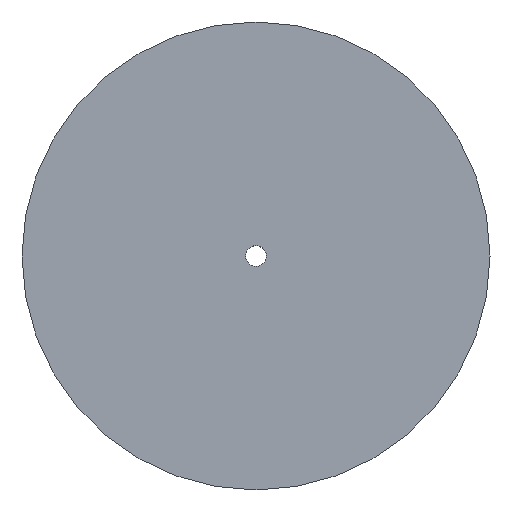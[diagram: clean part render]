
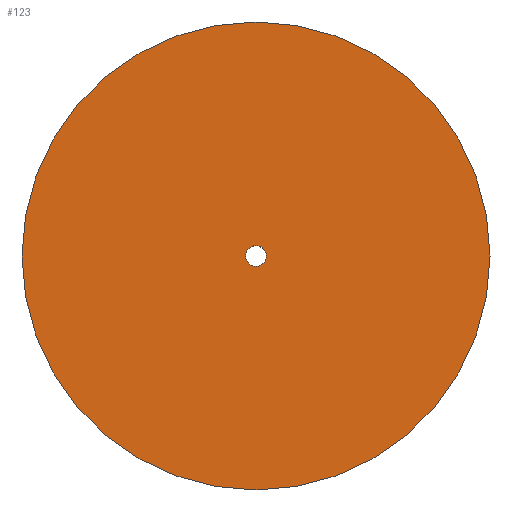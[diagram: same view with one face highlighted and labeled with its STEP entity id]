
A CAD part, top view. The second image highlights one B-rep face of the part: STEP entity #123.
In plain terms, the highlighted planar face has unit normal (0, 0, 1).
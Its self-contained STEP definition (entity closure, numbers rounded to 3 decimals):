
#62=CARTESIAN_POINT('Vertex',(-2.852,1.558,0.)) ;
#76=CARTESIAN_POINT('Vertex',(2.852,-1.558,0.)) ;
#79=CARTESIAN_POINT('Axis2P3D Location',(0.,0.,0.)) ;
#91=CARTESIAN_POINT('Axis2P3D Location',(0.,0.,0.)) ;
#96=CARTESIAN_POINT('Axis2P3D Location',(0.,0.,0.)) ;
#100=CARTESIAN_POINT('Vertex',(74.,0.,0.)) ;
#102=CARTESIAN_POINT('Vertex',(-74.,0.,0.)) ;
#105=CARTESIAN_POINT('Axis2P3D Location',(0.,0.,0.)) ;
#114=CARTESIAN_POINT('Axis2P3D Location',(0.,0.,0.)) ;
#80=DIRECTION('Axis2P3D Direction',(0.,-0.,-1.)) ;
#92=DIRECTION('Axis2P3D Direction',(0.,0.,1.)) ;
#93=DIRECTION('Axis2P3D XDirection',(1.,0.,0.)) ;
#97=DIRECTION('Axis2P3D Direction',(0.,0.,1.)) ;
#106=DIRECTION('Axis2P3D Direction',(0.,0.,1.)) ;
#115=DIRECTION('Axis2P3D Direction',(0.,0.,1.)) ;
#81=AXIS2_PLACEMENT_3D('Circle Axis2P3D',#79,#80,$) ;
#94=AXIS2_PLACEMENT_3D('Plane Axis2P3D',#91,#92,#93) ;
#98=AXIS2_PLACEMENT_3D('Circle Axis2P3D',#96,#97,$) ;
#107=AXIS2_PLACEMENT_3D('Circle Axis2P3D',#105,#106,$) ;
#116=AXIS2_PLACEMENT_3D('Circle Axis2P3D',#114,#115,$) ;
#111=ORIENTED_EDGE('',*,*,#104,.F.) ;
#112=ORIENTED_EDGE('',*,*,#109,.F.) ;
#120=ORIENTED_EDGE('',*,*,#118,.F.) ;
#121=ORIENTED_EDGE('',*,*,#83,.F.) ;
#122=FACE_BOUND('',#119,.T.) ;
#123=ADVANCED_FACE('PartBody',(#113,#122),#95,.T.) ;
#82=CIRCLE('generated circle',#81,3.25) ;
#99=CIRCLE('generated circle',#98,74.) ;
#108=CIRCLE('generated circle',#107,74.) ;
#117=CIRCLE('generated circle',#116,3.25) ;
#83=EDGE_CURVE('',#77,#63,#82,.F.) ;
#104=EDGE_CURVE('',#101,#103,#99,.F.) ;
#109=EDGE_CURVE('',#103,#101,#108,.F.) ;
#118=EDGE_CURVE('',#63,#77,#117,.T.) ;
#110=EDGE_LOOP('',(#111,#112)) ;
#119=EDGE_LOOP('',(#120,#121)) ;
#113=FACE_OUTER_BOUND('',#110,.T.) ;
#95=PLANE('',#94) ;
#63=VERTEX_POINT('',#62) ;
#77=VERTEX_POINT('',#76) ;
#101=VERTEX_POINT('',#100) ;
#103=VERTEX_POINT('',#102) ;
